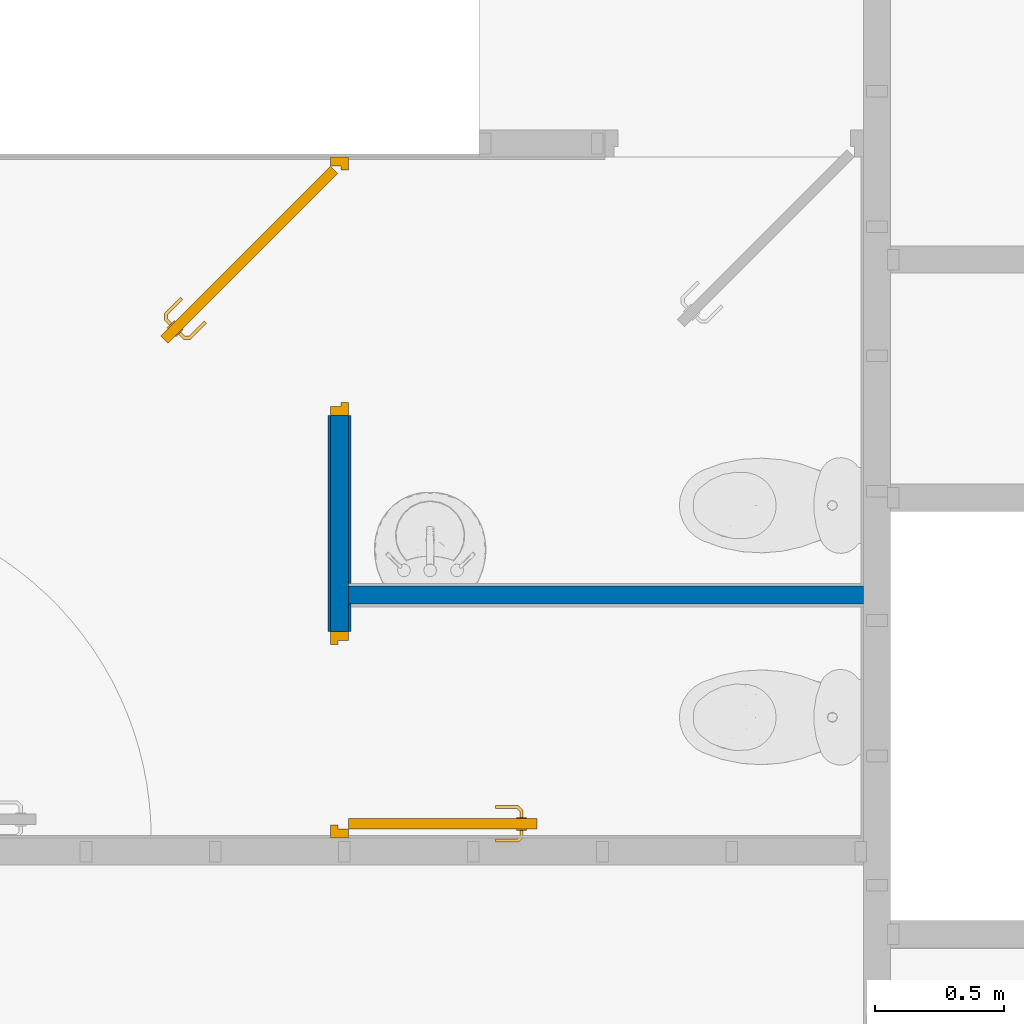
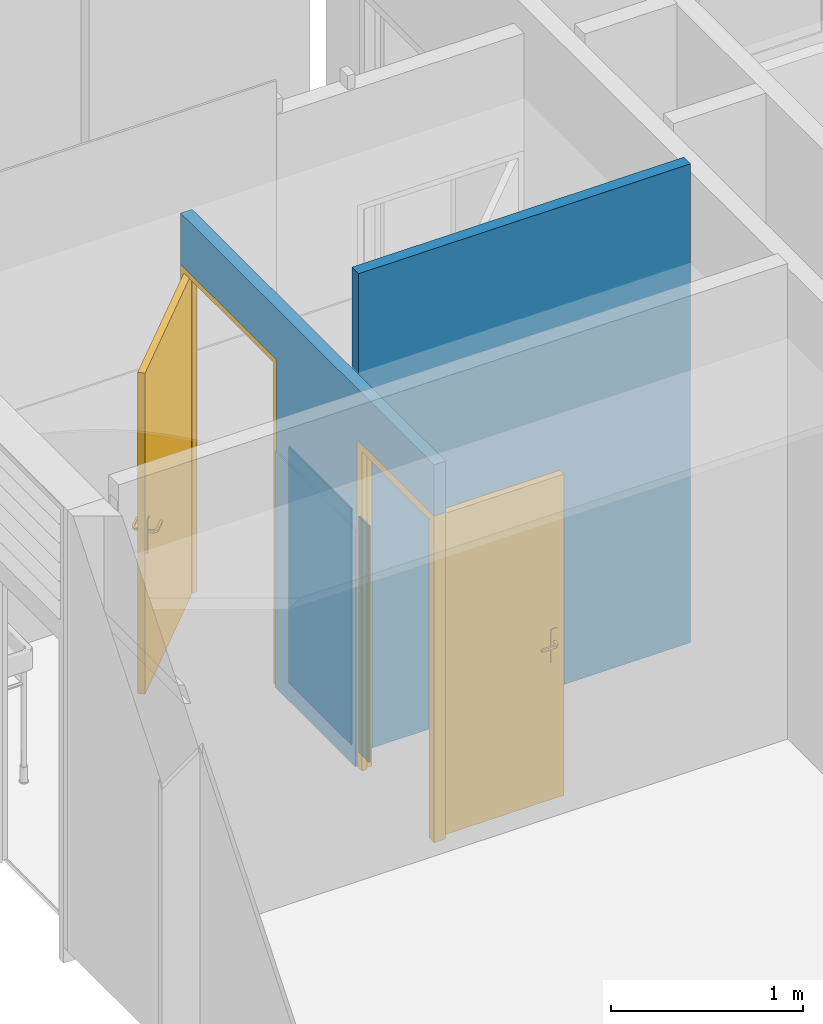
# One storey, part 3 of 15: 5 walls, 2 doors, 2 openings.
"""IFC2X3 building model written with IfcOpenShell, lengths in metres."""

from ifc_helpers import new_model, entity, si_unit, converted_unit, derived_unit, direction, frame, frame_2d, origin, place, context, subcontext, project, spatial, rectangle, extrude, faceted_brep, source, transform, mapped, material, layer, layer_set, layer_usage, type_object, type_shapes, element, fill, save


model = new_model("IFC2X3")

# Units and contexts
model_context = context("Model", 3, precision=1e-05, world=origin(), true_north=direction((6.12303176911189e-17, 1.0)))
body_context = subcontext(model_context, "Body", "Model", "MODEL_VIEW")
ifc_project = project(units=[si_unit("LENGTHUNIT", "METRE"), si_unit("AREAUNIT", "SQUARE_METRE"), si_unit("VOLUMEUNIT", "CUBIC_METRE"), converted_unit("PLANEANGLEUNIT", "DEGREE", entity("IfcRatioMeasure", 0.0174532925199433), si_unit("PLANEANGLEUNIT", "RADIAN"), dimensions=[0, 0, 0, 0, 0, 0, 0]), si_unit("MASSUNIT", "GRAM", prefix="KILO"), derived_unit("MASSDENSITYUNIT", [(si_unit("MASSUNIT", "GRAM", prefix="KILO"), 1), (si_unit("LENGTHUNIT", "METRE"), -3)]), si_unit("TIMEUNIT", "SECOND"), si_unit("FREQUENCYUNIT", "HERTZ"), si_unit("THERMODYNAMICTEMPERATUREUNIT", "DEGREE_CELSIUS"), derived_unit("THERMALTRANSMITTANCEUNIT", [(si_unit("MASSUNIT", "GRAM", prefix="KILO"), 1), (si_unit("THERMODYNAMICTEMPERATUREUNIT", "KELVIN"), -1), (si_unit("TIMEUNIT", "SECOND"), -3)]), derived_unit("VOLUMETRICFLOWRATEUNIT", [(si_unit("LENGTHUNIT", "METRE"), 3), (si_unit("TIMEUNIT", "SECOND"), -1)]), si_unit("ELECTRICCURRENTUNIT", "AMPERE"), si_unit("ELECTRICVOLTAGEUNIT", "VOLT"), si_unit("POWERUNIT", "WATT"), si_unit("FORCEUNIT", "NEWTON", prefix="KILO"), si_unit("ILLUMINANCEUNIT", "LUX"), si_unit("LUMINOUSFLUXUNIT", "LUMEN"), si_unit("LUMINOUSINTENSITYUNIT", "CANDELA"), derived_unit("USERDEFINED", [(si_unit("MASSUNIT", "GRAM", prefix="KILO"), -1), (si_unit("LENGTHUNIT", "METRE"), -2), (si_unit("TIMEUNIT", "SECOND"), 3), (si_unit("LUMINOUSFLUXUNIT", "LUMEN"), 1)]), derived_unit("LINEARVELOCITYUNIT", [(si_unit("LENGTHUNIT", "METRE"), 1), (si_unit("TIMEUNIT", "SECOND"), -1)]), si_unit("PRESSUREUNIT", "PASCAL"), derived_unit("USERDEFINED", [(si_unit("LENGTHUNIT", "METRE"), -2), (si_unit("MASSUNIT", "GRAM", prefix="KILO"), 1), (si_unit("TIMEUNIT", "SECOND"), -2)])], contexts=[model_context])

# Site, building, storey
site_placement = place(None, origin())
site = spatial("IfcSite", under=ifc_project, at=site_placement, Name="Surface", CompositionType="ELEMENT")
building_placement = place(site_placement, origin())
building = spatial("IfcBuilding", under=site, at=building_placement, Name="ExPREF", CompositionType="ELEMENT")
storey_placement = place(building_placement, frame((0.0, 0.0, 7.83)))
storey = spatial("IfcBuildingStorey", under=building, at=storey_placement, Name="R+2", CompositionType="ELEMENT", Elevation=7.83)

# Wall
ifc_material_1 = material(Name="AA-fermacell peint")
ifc_layer_1 = layer(ifc_material_1, 0.0125)
ifc_material_2 = material(Name="AA-isolant plancher")
ifc_layer_2 = layer(ifc_material_2, 0.045)
ifc_layer_3 = layer(ifc_material_1, 0.0125)
ifc_layer_set_1 = layer_set([ifc_layer_1, ifc_layer_2, ifc_layer_3], Name="Mur de base:Générique - Int. 70 mm")
ifc_layer_usage_1 = layer_usage(ifc_layer_set_1, "AXIS2", "NEGATIVE", 0.035)
wall_type_1 = type_object("IfcWallType", Name="Mur de base:Générique - Int. 70 mm", PredefinedType="STANDARD", material=ifc_layer_set_1)
wall_1_placement = place(storey_placement, frame((49.4372436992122, -188.81506962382, 0.0), z_axis=(0.0, 0.0, 1.0), x_axis=(-1.0, 0.0, 0.0)))
element("IfcWallStandardCase", 1, at=wall_1_placement, inside=storey, type_object=wall_type_1, material=ifc_layer_usage_1, Name="Mur de base:Générique - Int. 70 mm", ObjectType="Mur de base:Générique - Int. 70 mm", context=body_context, shape_type="SweptSolid", body=[
    extrude(rectangle(XDim=1.99349999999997, YDim=0.0700000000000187, at=frame_2d((0.996749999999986, 0.0), x_axis=(-1.0, 0.0))), origin(), (0.0, 0.0, 1.0), 3.04),
])

# Wall, openings, doors
ifc_layer_usage_2 = layer_usage(ifc_layer_set_1, "AXIS2", "POSITIVE", -0.035)
wall_2_placement = place(storey_placement, frame((47.4087436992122, -189.75556962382, 0.0), z_axis=(0.0, 0.0, 1.0), x_axis=(0.0, 1.0, 0.0)))
wall_2 = element("IfcWallStandardCase", 2, at=wall_2_placement, inside=storey, type_object=wall_type_1, material=ifc_layer_usage_2, Name="Mur de base:Générique - Int. 70 mm", ObjectType="Mur de base:Générique - Int. 70 mm", context=body_context, shape_type="SweptSolid", body=[
    extrude(rectangle(XDim=2.63658136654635, YDim=0.0700000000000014, at=frame_2d((1.31829068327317, 0.0), x_axis=(-1.0, 0.0))), origin(), (0.0, 0.0, 1.0), 2.4),
])
opening_1_placement = place(wall_2_placement, frame((1.63658136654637, -0.035, 0.0)))
opening_1 = element("IfcOpeningElement", 3, at=opening_1_placement, cuts=wall_2, Name="Porte intérieur bois:PP (0.93m x 2.04m):1", ObjectType="Opening", context=body_context, shape_type="SweptSolid", body=[
    extrude(rectangle(XDim=2.075, YDim=1.0, at=frame_2d((1.0375, 0.5), x_axis=(1.0, 0.0))), frame((0.0, 0.0, 0.0), z_axis=(0.0, 1.0, 0.0), x_axis=(0.0, 0.0, 1.0)), (0.0, 0.0, 1.0), 0.07),
])
opening_2_placement = place(wall_2_placement, frame((0.799999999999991, 0.035, 0.0)))
opening_2 = element("IfcOpeningElement", 4, at=opening_2_placement, cuts=wall_2, Name="Porte intérieur bois:PP (0.73m x 2.04m):1", ObjectType="Opening", context=body_context, shape_type="SweptSolid", body=[
    extrude(rectangle(XDim=2.075, YDim=0.799999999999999, at=frame_2d((1.0375, 0.4), x_axis=(1.0, 0.0))), frame((0.0, 0.0, 0.0), z_axis=(0.0, -1.0, 0.0), x_axis=(0.0, 0.0, 1.0)), (0.0, 0.0, 1.0), 0.07),
])
ifc_material_3 = material(Name="AA-Blanc satiné")
door_style_1 = type_object("IfcDoorStyle", Name="PP (0.93m x 2.04m)", ConstructionType="NOTDEFINED", OperationType="SINGLE_SWING_RIGHT", ParameterTakesPrecedence=False, Sizeable=False, material=ifc_material_3)
shared_shape_1 = source(origin(), body_context, "Body", "Brep", [
    faceted_brep([(0.750570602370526, -0.581930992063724, 0.992219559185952), (0.753434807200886, -0.584795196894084, 0.99221955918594), (0.756245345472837, -0.587605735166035, 0.992999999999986), (0.756245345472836, -0.587605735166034, 1.007), (0.75343480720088, -0.584795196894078, 1.00778044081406), (0.75057060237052, -0.581930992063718, 1.00778044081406), (0.747760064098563, -0.579120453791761, 1.007), (0.747760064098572, -0.57912045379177, 0.993000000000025), (0.763659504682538, -0.563221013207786, 1.007), (0.763659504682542, -0.563221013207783, 0.993000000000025), (0.767634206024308, -0.56486738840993, 1.00778044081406), (0.771684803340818, -0.56654520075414, 1.00778044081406), (0.771684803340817, -0.543654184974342, 1.00778044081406), (0.767634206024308, -0.545331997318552, 1.00778044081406), (0.775659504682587, -0.568191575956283, 1.007), (0.775659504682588, -0.568191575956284, 0.992999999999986), (0.771684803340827, -0.566545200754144, 0.99221955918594), (0.767634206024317, -0.564867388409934, 0.992219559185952), (0.767634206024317, -0.545331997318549, 0.992219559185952), (0.771684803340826, -0.543654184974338, 0.99221955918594), (0.763659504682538, -0.546978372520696, 1.007), (0.763659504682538, -0.546978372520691, 0.993000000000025), (0.775659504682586, -0.542007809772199, 1.007), (0.775659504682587, -0.542007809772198, 0.992999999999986), (0.708090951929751, -0.485788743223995, 1.00778044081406), (0.710955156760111, -0.482924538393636, 1.00778044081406), (0.713765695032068, -0.480114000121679, 1.007), (0.713765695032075, -0.480114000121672, 0.992999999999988), (0.710955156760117, -0.48292453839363, 0.99221955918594), (0.708090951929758, -0.485788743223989, 0.992219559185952), (0.705280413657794, -0.488599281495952, 0.993000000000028), (0.705280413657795, -0.488599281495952, 1.007), (0.734469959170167, -0.517788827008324, 1.007), (0.734469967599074, -0.517788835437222, 0.993000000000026), (0.739294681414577, -0.51412826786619, 1.0078786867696), (0.747424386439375, -0.513772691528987, 1.007), (0.747424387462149, -0.513772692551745, 0.992999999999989), (0.739294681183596, -0.514128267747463, 0.992121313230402)], [[[0, 1, 2, 3, 4, 5, 6, 7]], [[8, 9, 7, 6]], [[5, 10, 8, 6]], [[5, 4, 11, 12, 13, 10]], [[3, 14, 11, 4]], [[14, 3, 2, 15]], [[2, 1, 16, 15]], [[1, 0, 17, 18, 19, 16]], [[0, 7, 9, 17]], [[20, 21, 9, 8]], [[8, 10, 13, 20]], [[14, 22, 12, 11]], [[23, 22, 14, 15]], [[15, 16, 19, 23]], [[17, 9, 21, 18]], [[24, 25, 26, 27, 28, 29, 30, 31]], [[21, 20, 32, 31, 30, 33]], [[34, 24, 32]], [[25, 34, 35]], [[13, 32, 20]], [[24, 31, 32]], [[25, 35, 26]], [[35, 12, 22]], [[34, 12, 35]], [[34, 13, 12]], [[34, 32, 13]], [[24, 34, 25]], [[22, 23, 36, 27, 26, 35]], [[37, 28, 36]], [[36, 28, 27]], [[36, 23, 19]], [[18, 33, 37]], [[33, 18, 21]], [[30, 29, 33]], [[37, 29, 28]], [[37, 33, 29]], [[37, 36, 19]], [[18, 37, 19]]]),
    faceted_brep([(0.715215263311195, -0.617286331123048, 1.00778044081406), (0.718079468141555, -0.620150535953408, 1.00778044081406), (0.720890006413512, -0.622961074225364, 1.00699999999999), (0.720890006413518, -0.622961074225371, 0.992999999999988), (0.718079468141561, -0.620150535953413, 0.99221955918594), (0.715215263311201, -0.617286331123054, 0.992219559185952), (0.712404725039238, -0.614475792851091, 0.993000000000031), (0.712404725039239, -0.614475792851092, 1.007), (0.699691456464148, -0.638538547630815, 1.00778044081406), (0.701337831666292, -0.642513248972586, 1.007), (0.698013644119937, -0.634487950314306, 1.00778044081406), (0.678672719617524, -0.634487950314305, 1.00778044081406), (0.676994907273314, -0.638538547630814, 1.00778044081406), (0.696367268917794, -0.630513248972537, 1.007), (0.696367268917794, -0.630513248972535, 0.993000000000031), (0.698013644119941, -0.634487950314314, 0.992219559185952), (0.699691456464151, -0.638538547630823, 0.99221955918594), (0.676994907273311, -0.638538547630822, 0.99221955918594), (0.678672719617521, -0.634487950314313, 0.992219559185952), (0.701337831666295, -0.642513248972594, 0.992999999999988), (0.67534853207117, -0.642513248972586, 1.007), (0.680319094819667, -0.630513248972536, 1.007), (0.680319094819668, -0.630513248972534, 0.993000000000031), (0.675348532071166, -0.642513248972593, 0.992999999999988), (0.613376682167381, -0.580541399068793, 1.007), (0.616187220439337, -0.577730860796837, 1.00778044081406), (0.619051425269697, -0.574866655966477, 1.00778044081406), (0.621861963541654, -0.57205611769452, 1.00699999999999), (0.621861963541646, -0.572056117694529, 0.993000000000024), (0.619051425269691, -0.574866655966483, 0.992219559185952), (0.616187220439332, -0.577730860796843, 0.99221955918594), (0.613376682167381, -0.580541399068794, 0.992999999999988), (0.647429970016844, -0.606109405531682, 1.0078786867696), (0.647113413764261, -0.614278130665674, 1.007), (0.651090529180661, -0.601284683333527, 1.007), (0.651090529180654, -0.601284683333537, 0.993000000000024), (0.64742997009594, -0.606109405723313, 0.992121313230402), (0.64711341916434, -0.61427813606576, 0.992999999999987)], [[[0, 1, 2, 3, 4, 5, 6, 7]], [[2, 1, 8, 9]], [[1, 0, 10, 11, 12, 8]], [[0, 7, 13, 10]], [[14, 13, 7, 6]], [[5, 15, 14, 6]], [[5, 4, 16, 17, 18, 15]], [[3, 19, 16, 4]], [[9, 19, 3, 2]], [[9, 8, 12, 20]], [[10, 13, 21, 11]], [[22, 21, 13, 14]], [[14, 15, 18, 22]], [[16, 19, 23, 17]], [[20, 23, 19, 9]], [[24, 25, 26, 27, 28, 29, 30, 31]], [[32, 25, 33]], [[33, 25, 24]], [[33, 20, 12]], [[11, 34, 32]], [[34, 11, 21]], [[27, 26, 34]], [[32, 26, 25]], [[32, 34, 26]], [[32, 33, 12]], [[11, 32, 12]], [[21, 22, 35, 28, 27, 34]], [[36, 29, 35]], [[30, 36, 37]], [[18, 35, 22]], [[29, 28, 35]], [[30, 37, 31]], [[37, 17, 23]], [[36, 17, 37]], [[36, 18, 17]], [[36, 35, 18]], [[29, 36, 30]], [[23, 20, 33, 24, 31, 37]]]),
    faceted_brep([(0.762609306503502, -0.601040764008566, 0.870000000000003), (0.762609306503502, -0.601040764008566, 1.08), (0.75578767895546, -0.594219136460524, 1.08399601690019), (0.748467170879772, -0.586898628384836, 1.08535898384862), (0.741146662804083, -0.579578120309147, 1.08399601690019), (0.734325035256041, -0.572756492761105, 1.08), (0.73432503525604, -0.572756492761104, 0.870000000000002), (0.741146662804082, -0.579578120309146, 0.866003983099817), (0.748467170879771, -0.586898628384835, 0.86464101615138), (0.755787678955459, -0.594219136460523, 0.866003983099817), (0.752002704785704, -0.583363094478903, 1.08535898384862), (0.759323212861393, -0.590683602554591, 1.08399601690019), (0.766144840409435, -0.597505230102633, 1.08), (0.766144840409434, -0.597505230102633, 0.870000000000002), (0.759323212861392, -0.590683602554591, 0.866003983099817), (0.752002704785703, -0.583363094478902, 0.86464101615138), (0.744682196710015, -0.576042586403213, 0.866003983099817), (0.737860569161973, -0.569220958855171, 0.870000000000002), (0.737860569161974, -0.569220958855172, 1.08), (0.744682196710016, -0.576042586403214, 1.08399601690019)], [[[0, 1, 2, 3, 4, 5, 6, 7, 8, 9]], [[10, 11, 12, 13, 14, 15, 16, 17, 18, 19]], [[4, 19, 18, 5]], [[3, 10, 19, 4]], [[2, 11, 10, 3]], [[2, 1, 12, 11]], [[13, 12, 1, 0]], [[9, 14, 13, 0]], [[8, 15, 14, 9]], [[7, 16, 15, 8]], [[7, 6, 17, 16]], [[17, 6, 5, 18]]]),
    faceted_brep([(0.730789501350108, -0.632860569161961, 0.870000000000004), (0.730789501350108, -0.632860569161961, 1.08), (0.723967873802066, -0.626038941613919, 1.08399601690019), (0.716647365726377, -0.61871843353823, 1.08535898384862), (0.709326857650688, -0.611397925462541, 1.08399601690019), (0.702505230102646, -0.604576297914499, 1.08), (0.702505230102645, -0.604576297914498, 0.870000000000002), (0.709326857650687, -0.61139792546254, 0.866003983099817), (0.716647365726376, -0.618718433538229, 0.86464101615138), (0.723967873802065, -0.626038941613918, 0.866003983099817), (0.73432503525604, -0.629325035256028, 1.08), (0.73432503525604, -0.629325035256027, 0.870000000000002), (0.727503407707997, -0.622503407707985, 0.866003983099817), (0.720182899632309, -0.615182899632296, 0.86464101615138), (0.71286239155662, -0.607862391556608, 0.866003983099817), (0.706040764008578, -0.601040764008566, 0.870000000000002), (0.706040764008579, -0.601040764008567, 1.08), (0.712862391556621, -0.607862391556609, 1.08399601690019), (0.72018289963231, -0.615182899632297, 1.08535898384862), (0.727503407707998, -0.622503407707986, 1.08399601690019)], [[[0, 1, 2, 3, 4, 5, 6, 7, 8, 9]], [[10, 11, 12, 13, 14, 15, 16, 17, 18, 19]], [[9, 12, 11, 0]], [[8, 13, 12, 9]], [[7, 14, 13, 8]], [[7, 6, 15, 14]], [[15, 6, 5, 16]], [[4, 17, 16, 5]], [[3, 18, 17, 4]], [[2, 19, 18, 3]], [[2, 1, 10, 19]], [[11, 10, 1, 0]]]),
    faceted_brep([(0.790893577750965, -0.629325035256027, 2.04), (0.790893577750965, -0.629325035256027, 0.0), (0.133284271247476, 0.0282842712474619, 0.0), (0.133284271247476, 0.0282842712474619, 2.04), (0.762609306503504, -0.657609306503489, 2.04), (0.105000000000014, 0.0, 2.04), (0.105000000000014, 0.0, 0.0), (0.762609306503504, -0.657609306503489, 0.0)], [[[0, 1, 2, 3]], [[4, 5, 6, 7]], [[3, 5, 4, 0]], [[2, 6, 5, 3]], [[1, 7, 6, 2]], [[0, 4, 7, 1]]]),
    faceted_brep([(1.07000000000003, 0.0, 0.0), (1.03500000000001, 0.0, 0.0), (1.03500000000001, 0.04, 0.0), (1.02000000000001, 0.04, 0.0), (1.02000000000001, 0.0699999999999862, 0.0), (1.07000000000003, 0.0699999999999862, 0.0), (1.07000000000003, 0.0699999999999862, 2.07500000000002), (1.07000000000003, 0.0, 2.07500000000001), (1.02000000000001, 0.0699999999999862, 2.025), (0.120000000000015, 0.0699999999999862, 2.025), (0.120000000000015, 0.0699999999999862, 0.0), (0.0699999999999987, 0.0699999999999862, 0.0), (0.0699999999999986, 0.0699999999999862, 2.07500000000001), (1.02000000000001, 0.04, 2.025), (1.03500000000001, 0.04, 2.04), (0.105000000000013, 0.04, 2.04), (0.105000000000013, 0.04, 0.0), (0.120000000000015, 0.04, 0.0), (0.120000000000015, 0.04, 2.025), (1.03500000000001, 0.0, 2.04), (0.0699999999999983, 0.0, 2.07500000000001), (0.0699999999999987, 0.0, 0.0), (0.105000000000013, 0.0, 0.0), (0.105000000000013, 0.0, 2.04)], [[[0, 1, 2, 3, 4, 5]], [[5, 6, 7, 0]], [[4, 8, 9, 10, 11, 12, 6, 5]], [[3, 13, 8, 4]], [[2, 14, 15, 16, 17, 18, 13, 3]], [[1, 19, 14, 2]], [[0, 7, 20, 21, 22, 23, 19, 1]], [[12, 11, 21, 20]], [[21, 11, 10, 17, 16, 22]], [[18, 17, 10, 9]], [[23, 22, 16, 15]], [[6, 12, 20, 7]], [[13, 18, 9, 8]], [[19, 23, 15, 14]]]),
])
type_shapes(door_style_1, [shared_shape_1])
door_1_placement = place(opening_1_placement, frame((1.07000000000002, 0.0699999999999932, 0.0), z_axis=(0.0, 0.0, 1.0), x_axis=(-1.0, 0.0, 0.0)))
door_1 = element("IfcDoor", 5, at=door_1_placement, inside=storey, type_object=door_style_1, material=ifc_material_3, Name="Porte intérieur bois:PP (0.93m x 2.04m)", ObjectType="PP (0.93m x 2.04m)", OverallHeight=2.075, OverallWidth=1.00000000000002, context=body_context, shape_type="MappedRepresentation", body=[
    mapped(shared_shape_1, transform((0.0, 0.0, 0.0), scale=1.0)),
])
fill(opening_1, door_1)
door_style_2 = type_object("IfcDoorStyle", Name="PP (0.73m x 2.04m)", ConstructionType="NOTDEFINED", OperationType="SINGLE_SWING_RIGHT", ParameterTakesPrecedence=False, Sizeable=False, material=ifc_material_3)
shared_shape_2 = source(origin(), body_context, "Body", "Brep", [
    faceted_brep([(0.150000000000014, -0.667974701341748, 0.992219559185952), (0.150000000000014, -0.672025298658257, 0.99221955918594), (0.150000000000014, -0.676000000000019, 0.992999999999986), (0.150000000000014, -0.676000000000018, 1.007), (0.150000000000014, -0.672025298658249, 1.00778044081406), (0.150000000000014, -0.667974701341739, 1.00778044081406), (0.150000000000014, -0.663999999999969, 1.007), (0.150000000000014, -0.663999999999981, 0.993000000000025), (0.172485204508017, -0.663999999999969, 1.007), (0.172485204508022, -0.663999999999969, 0.993000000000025), (0.174131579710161, -0.667974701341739, 1.00778044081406), (0.175809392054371, -0.672025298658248, 1.00778044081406), (0.191995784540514, -0.655838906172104, 1.00778044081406), (0.187945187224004, -0.654161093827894, 1.00778044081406), (0.177455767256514, -0.676000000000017, 1.007), (0.177455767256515, -0.676000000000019, 0.992999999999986), (0.175809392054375, -0.672025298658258, 0.99221955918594), (0.174131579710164, -0.667974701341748, 0.992219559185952), (0.187945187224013, -0.654161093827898, 0.992219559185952), (0.191995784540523, -0.655838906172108, 0.99221955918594), (0.183970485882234, -0.652514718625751, 1.007), (0.183970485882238, -0.652514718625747, 0.993000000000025), (0.195970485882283, -0.657485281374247, 1.007), (0.195970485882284, -0.657485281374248, 0.992999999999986), (0.187945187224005, -0.569954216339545, 1.00778044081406), (0.191995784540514, -0.569954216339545, 1.00778044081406), (0.195970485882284, -0.569954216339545, 1.007), (0.195970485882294, -0.569954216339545, 0.992999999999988), (0.191995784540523, -0.569954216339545, 0.99221955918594), (0.187945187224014, -0.569954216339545, 0.992219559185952), (0.183970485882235, -0.569954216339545, 0.993000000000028), (0.183970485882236, -0.569954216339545, 1.007), (0.183970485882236, -0.611234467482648, 1.007), (0.183970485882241, -0.611234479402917, 0.993000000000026), (0.189970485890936, -0.612057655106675, 1.0078786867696), (0.195970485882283, -0.617554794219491, 1.007), (0.195970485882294, -0.6175547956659, 0.992999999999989), (0.189970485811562, -0.612057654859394, 0.992121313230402)], [[[0, 1, 2, 3, 4, 5, 6, 7]], [[8, 9, 7, 6]], [[5, 10, 8, 6]], [[5, 4, 11, 12, 13, 10]], [[3, 14, 11, 4]], [[14, 3, 2, 15]], [[2, 1, 16, 15]], [[1, 0, 17, 18, 19, 16]], [[0, 7, 9, 17]], [[20, 21, 9, 8]], [[8, 10, 13, 20]], [[14, 22, 12, 11]], [[23, 22, 14, 15]], [[15, 16, 19, 23]], [[17, 9, 21, 18]], [[24, 25, 26, 27, 28, 29, 30, 31]], [[21, 20, 32, 31, 30, 33]], [[34, 24, 32]], [[25, 34, 35]], [[13, 32, 20]], [[24, 31, 32]], [[25, 35, 26]], [[35, 12, 22]], [[34, 12, 35]], [[34, 13, 12]], [[34, 32, 13]], [[24, 34, 25]], [[22, 23, 36, 27, 26, 35]], [[37, 28, 36]], [[36, 28, 27]], [[36, 23, 19]], [[18, 33, 37]], [[33, 18, 21]], [[30, 29, 33]], [[37, 29, 28]], [[37, 33, 29]], [[37, 36, 19]], [[18, 37, 19]]]),
    faceted_brep([(0.100000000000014, -0.667974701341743, 1.00778044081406), (0.100000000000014, -0.672025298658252, 1.00778044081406), (0.100000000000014, -0.676000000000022, 1.00699999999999), (0.100000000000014, -0.676000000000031, 0.992999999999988), (0.100000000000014, -0.67202529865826, 0.99221955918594), (0.100000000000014, -0.667974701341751, 0.992219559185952), (0.100000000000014, -0.663999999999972, 0.993000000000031), (0.100000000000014, -0.663999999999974, 1.007), (0.0739954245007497, -0.672025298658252, 1.00778044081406), (0.0723490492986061, -0.676000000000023, 1.007), (0.07567323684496, -0.667974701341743, 1.00778044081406), (0.061997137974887, -0.654298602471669, 1.00778044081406), (0.0579465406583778, -0.655976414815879, 1.00778044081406), (0.0773196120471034, -0.663999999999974, 1.007), (0.077319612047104, -0.663999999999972, 0.993000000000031), (0.0756732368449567, -0.667974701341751, 0.992219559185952), (0.0739954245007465, -0.67202529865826, 0.99221955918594), (0.0579465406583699, -0.655976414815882, 0.99221955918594), (0.0619971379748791, -0.654298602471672, 0.992219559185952), (0.0723490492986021, -0.676000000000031, 0.992999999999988), (0.0539718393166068, -0.657622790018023, 1.007), (0.0659718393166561, -0.652652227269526, 1.007), (0.0659718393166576, -0.652652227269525, 0.993000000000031), (0.0539718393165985, -0.657622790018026, 0.992999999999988), (0.0539718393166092, -0.569981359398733, 1.007), (0.0579465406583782, -0.569981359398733, 1.00778044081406), (0.0619971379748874, -0.569981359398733, 1.00778044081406), (0.0659718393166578, -0.569981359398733, 1.00699999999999), (0.0659718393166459, -0.569981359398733, 0.993000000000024), (0.0619971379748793, -0.569981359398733, 0.992219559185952), (0.0579465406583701, -0.569981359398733, 0.99221955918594), (0.0539718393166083, -0.569981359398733, 0.992999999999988), (0.0599718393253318, -0.612139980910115, 1.0078786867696), (0.0539718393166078, -0.617692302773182, 1.007), (0.0659718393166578, -0.611316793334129, 1.007), (0.0659718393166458, -0.611316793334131, 0.993000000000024), (0.0599718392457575, -0.612139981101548, 0.992121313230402), (0.0539718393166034, -0.617692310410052, 0.992999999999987)], [[[0, 1, 2, 3, 4, 5, 6, 7]], [[2, 1, 8, 9]], [[1, 0, 10, 11, 12, 8]], [[0, 7, 13, 10]], [[14, 13, 7, 6]], [[5, 15, 14, 6]], [[5, 4, 16, 17, 18, 15]], [[3, 19, 16, 4]], [[9, 19, 3, 2]], [[9, 8, 12, 20]], [[10, 13, 21, 11]], [[22, 21, 13, 14]], [[14, 15, 18, 22]], [[16, 19, 23, 17]], [[20, 23, 19, 9]], [[24, 25, 26, 27, 28, 29, 30, 31]], [[32, 25, 33]], [[33, 25, 24]], [[33, 20, 12]], [[11, 34, 32]], [[34, 11, 21]], [[27, 26, 34]], [[32, 26, 25]], [[32, 34, 26]], [[32, 33, 12]], [[11, 32, 12]], [[21, 22, 35, 28, 27, 34]], [[36, 29, 35]], [[30, 36, 37]], [[18, 35, 22]], [[29, 28, 35]], [[30, 37, 31]], [[37, 17, 23]], [[36, 17, 37]], [[36, 18, 17]], [[36, 35, 18]], [[29, 36, 30]], [[23, 20, 33, 24, 31, 37]]]),
    faceted_brep([(0.145000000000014, -0.69, 0.870000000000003), (0.145000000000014, -0.69, 1.08), (0.145000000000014, -0.680352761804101, 1.08399601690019), (0.145000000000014, -0.67, 1.08535898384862), (0.145000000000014, -0.6596472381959, 1.08399601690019), (0.145000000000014, -0.650000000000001, 1.08), (0.145000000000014, -0.649999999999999, 0.870000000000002), (0.145000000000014, -0.659647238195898, 0.866003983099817), (0.145000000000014, -0.669999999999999, 0.86464101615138), (0.145000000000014, -0.6803527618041, 0.866003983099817), (0.150000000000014, -0.67, 1.08535898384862), (0.150000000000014, -0.680352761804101, 1.08399601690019), (0.150000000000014, -0.69, 1.08), (0.150000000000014, -0.689999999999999, 0.870000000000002), (0.150000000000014, -0.6803527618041, 0.866003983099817), (0.150000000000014, -0.669999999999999, 0.86464101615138), (0.150000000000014, -0.659647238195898, 0.866003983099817), (0.150000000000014, -0.649999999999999, 0.870000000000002), (0.150000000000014, -0.650000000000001, 1.08), (0.150000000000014, -0.6596472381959, 1.08399601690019)], [[[0, 1, 2, 3, 4, 5, 6, 7, 8, 9]], [[10, 11, 12, 13, 14, 15, 16, 17, 18, 19]], [[4, 19, 18, 5]], [[3, 10, 19, 4]], [[2, 11, 10, 3]], [[2, 1, 12, 11]], [[13, 12, 1, 0]], [[9, 14, 13, 0]], [[8, 15, 14, 9]], [[7, 16, 15, 8]], [[7, 6, 17, 16]], [[17, 6, 5, 18]]]),
    faceted_brep([(0.100000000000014, -0.69, 0.870000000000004), (0.100000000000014, -0.69, 1.08), (0.100000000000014, -0.680352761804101, 1.08399601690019), (0.100000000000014, -0.67, 1.08535898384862), (0.100000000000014, -0.659647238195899, 1.08399601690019), (0.100000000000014, -0.650000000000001, 1.08), (0.100000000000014, -0.649999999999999, 0.870000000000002), (0.100000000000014, -0.659647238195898, 0.866003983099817), (0.100000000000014, -0.669999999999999, 0.86464101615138), (0.100000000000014, -0.6803527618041, 0.866003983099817), (0.105000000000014, -0.69, 1.08), (0.105000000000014, -0.689999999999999, 0.870000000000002), (0.105000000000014, -0.6803527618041, 0.866003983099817), (0.105000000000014, -0.669999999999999, 0.86464101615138), (0.105000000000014, -0.659647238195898, 0.866003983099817), (0.105000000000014, -0.649999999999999, 0.870000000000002), (0.105000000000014, -0.65, 1.08), (0.105000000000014, -0.659647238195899, 1.08399601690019), (0.105000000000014, -0.67, 1.08535898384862), (0.105000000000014, -0.680352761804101, 1.08399601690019)], [[[0, 1, 2, 3, 4, 5, 6, 7, 8, 9]], [[10, 11, 12, 13, 14, 15, 16, 17, 18, 19]], [[9, 12, 11, 0]], [[8, 13, 12, 9]], [[7, 14, 13, 8]], [[7, 6, 15, 14]], [[15, 6, 5, 16]], [[4, 17, 16, 5]], [[3, 18, 17, 4]], [[2, 19, 18, 3]], [[2, 1, 10, 19]], [[11, 10, 1, 0]]]),
    faceted_brep([(0.145000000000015, -0.73, 2.04), (0.145000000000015, -0.73, 0.0), (0.145000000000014, 0.0, 0.0), (0.145000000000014, 0.0, 2.04), (0.105000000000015, -0.73, 2.04), (0.105000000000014, 0.0, 2.04), (0.105000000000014, 0.0, 0.0), (0.105000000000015, -0.73, 0.0)], [[[0, 1, 2, 3]], [[4, 5, 6, 7]], [[3, 5, 4, 0]], [[2, 6, 5, 3]], [[1, 7, 6, 2]], [[0, 4, 7, 1]]]),
    faceted_brep([(0.870000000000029, 0.0, 0.0), (0.835000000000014, 0.0, 0.0), (0.835000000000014, 0.04, 0.0), (0.820000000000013, 0.04, 0.0), (0.820000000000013, 0.0699999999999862, 0.0), (0.870000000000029, 0.0699999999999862, 0.0), (0.870000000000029, 0.0699999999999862, 2.07500000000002), (0.870000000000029, 0.0, 2.07500000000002), (0.820000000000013, 0.0699999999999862, 2.025), (0.120000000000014, 0.0699999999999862, 2.025), (0.120000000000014, 0.0699999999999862, 0.0), (0.0699999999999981, 0.0699999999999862, 0.0), (0.0699999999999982, 0.0699999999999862, 2.07500000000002), (0.820000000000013, 0.04, 2.025), (0.835000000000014, 0.04, 2.04), (0.105000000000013, 0.04, 2.04), (0.105000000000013, 0.04, 0.0), (0.120000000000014, 0.04, 0.0), (0.120000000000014, 0.04, 2.025), (0.835000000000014, 0.0, 2.04), (0.0699999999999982, 0.0, 2.07500000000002), (0.0699999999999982, 0.0, 0.0), (0.105000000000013, 0.0, 0.0), (0.105000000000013, 0.0, 2.04)], [[[0, 1, 2, 3, 4, 5]], [[5, 6, 7, 0]], [[4, 8, 9, 10, 11, 12, 6, 5]], [[3, 13, 8, 4]], [[2, 14, 15, 16, 17, 18, 13, 3]], [[1, 19, 14, 2]], [[0, 7, 20, 21, 22, 23, 19, 1]], [[12, 11, 21, 20]], [[21, 11, 10, 17, 16, 22]], [[18, 17, 10, 9]], [[23, 22, 16, 15]], [[6, 12, 20, 7]], [[13, 18, 9, 8]], [[19, 23, 15, 14]]]),
])
type_shapes(door_style_2, [shared_shape_2])
door_2_placement = place(opening_2_placement, frame((-0.870000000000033, -0.0700000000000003, 0.0)))
door_2 = element("IfcDoor", 6, at=door_2_placement, inside=storey, type_object=door_style_2, material=ifc_material_3, Name="Porte intérieur bois:PP (0.73m x 2.04m)", ObjectType="PP (0.73m x 2.04m)", OverallHeight=2.075, OverallWidth=0.800000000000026, context=body_context, shape_type="MappedRepresentation", body=[
    mapped(shared_shape_2, transform((0.0, 0.0, 0.0), scale=1.0)),
])
fill(opening_2, door_2)

# Walls
ifc_material_4 = material(Name="AA-sol carrelage")
ifc_layer_4 = layer(ifc_material_4, 0.01)
ifc_layer_set_2 = layer_set([ifc_layer_4], Name="Mur de base:A-carrelage")
ifc_layer_usage_3 = layer_usage(ifc_layer_set_2, "AXIS2", "NEGATIVE", 0.005)
wall_type_2 = type_object("IfcWallType", Name="Mur de base:A-carrelage", PredefinedType="STANDARD", material=ifc_layer_set_2)
wall_3_placement = place(storey_placement, frame((47.4487436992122, -188.77006962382, 0.0), z_axis=(0.0, 0.0, 1.0), x_axis=(0.0, 1.0, 0.0)))
element("IfcWallStandardCase", 7, at=wall_3_placement, inside=storey, type_object=wall_type_2, material=ifc_layer_usage_3, Name="Mur de base:A-carrelage", ObjectType="Mur de base:A-carrelage", context=body_context, shape_type="SweptSolid", body=[
    extrude(rectangle(XDim=0.651081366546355, YDim=0.00999999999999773, at=frame_2d((0.325540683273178, 0.0), x_axis=(-1.0, 0.0))), origin(), (0.0, 0.0, 1.0), 1.5),
])
ifc_layer_usage_4 = layer_usage(ifc_layer_set_2, "AXIS2", "NEGATIVE", 0.005)
wall_4_placement = place(storey_placement, frame((47.4487436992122, -188.95556962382, 0.0), z_axis=(0.0, 0.0, 1.0), x_axis=(0.0, 1.0, 0.0)))
element("IfcWallStandardCase", 8, at=wall_4_placement, inside=storey, type_object=wall_type_2, material=ifc_layer_usage_4, Name="Mur de base:A-carrelage", ObjectType="Mur de base:A-carrelage", context=body_context, shape_type="SweptSolid", body=[
    extrude(rectangle(XDim=0.105500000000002, YDim=0.00999999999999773, at=frame_2d((0.052750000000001, 0.0), x_axis=(-1.0, 0.0))), origin(), (0.0, 0.0, 1.0), 1.5),
])
ifc_layer_usage_5 = layer_usage(ifc_layer_set_2, "AXIS2", "NEGATIVE", 0.005)
wall_5_placement = place(storey_placement, frame((47.3687436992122, -188.118988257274, 0.0), z_axis=(0.0, 0.0, 1.0), x_axis=(0.0, -1.0, 0.0)))
element("IfcWallStandardCase", 9, at=wall_5_placement, inside=storey, type_object=wall_type_2, material=ifc_layer_usage_5, Name="Mur de base:A-carrelage", ObjectType="Mur de base:A-carrelage", context=body_context, shape_type="SweptSolid", body=[
    extrude(rectangle(XDim=0.836581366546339, YDim=0.00999999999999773, at=frame_2d((0.41829068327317, 0.0), x_axis=(-1.0, 0.0))), origin(), (0.0, 0.0, 1.0), 1.5),
])

save(model, "model.ifc")
